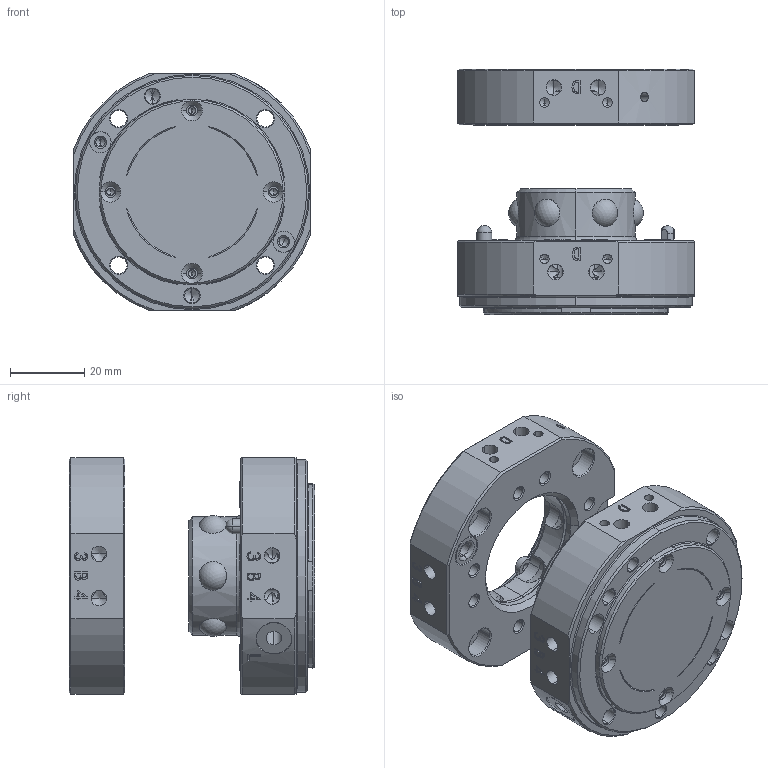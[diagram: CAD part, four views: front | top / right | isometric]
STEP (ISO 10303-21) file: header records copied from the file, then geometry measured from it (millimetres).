
FILE_DESCRIPTION(/* description */ (''),/* implementation_level */ '2;1');
FILE_NAME(/* name */ 'QCA-20.stp',/* time_stamp */ '2024-04-12T09:26:40+08:00',/* author */ (''),/* organization */ (''),/* preprocessor_version */ 'ST-DEVELOPER v16.7',/* originating_system */ 'SIEMENS PLM Software NX 12.0',/* authorisation */ '');
FILE_SCHEMA (('AUTOMOTIVE_DESIGN { 1 0 10303 214 3 1 1 1 }'));
Products named in the file (1): _model42
Bounding box: 64 x 66.27 x 64 mm (x, y, z)
Volume: 100611.6 mm3; surface area: 37843.5 mm2
Topology: 2 solids, 23 shells, 1310 faces, 3415 edges, 2124 vertices
Faces by surface type: cylinder 401, plane 326, cone 324, torus 123, bspline 102, sphere 34
Full cylindrical faces by diameter (mm): 38 x1
Entity records: 52796 total; most frequent: CARTESIAN_POINT 19854, ORIENTED_EDGE 6618, DIRECTION 6344, EDGE_CURVE 3309, AXIS2_PLACEMENT_3D 2574, VERTEX_POINT 2120, EDGE_LOOP 1503, CIRCLE 1365
